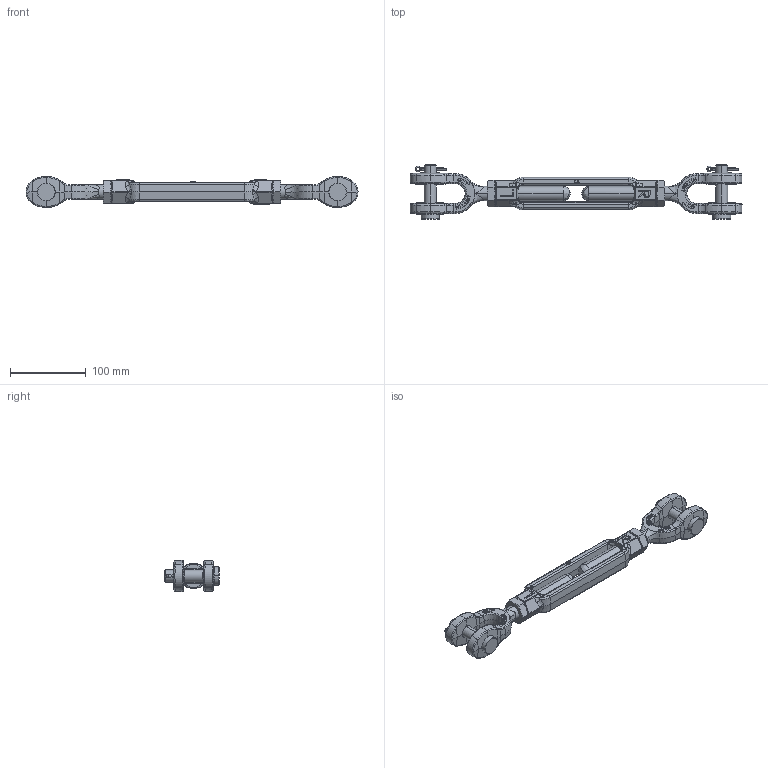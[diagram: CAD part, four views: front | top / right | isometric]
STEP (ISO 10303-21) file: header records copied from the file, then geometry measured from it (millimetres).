
FILE_DESCRIPTION(('STEP AP203'),'1');
FILE_NAME('ssgpgg1906.stp','2023-12-21T14:45:12',('TraceParts'),('TraceParts S.A.'),'Spatial InterOp 3D',' ',' ');
FILE_SCHEMA(('CONFIG_CONTROL_DESIGN'));
Length unit declared in the file: millimetre
Products named in the file (1): 1
Bounding box: 439 x 72 x 41 mm (x, y, z)
Volume: 334577.1 mm3; surface area: 94669.4 mm2
Topology: 12 solids, 12 shells, 1054 faces, 2657 edges, 1632 vertices
Faces by surface type: bspline 458, plane 319, cylinder 205, cone 72
Entity records: 62137 total; most frequent: CARTESIAN_POINT 40616, ORIENTED_EDGE 5282, DIRECTION 3233, EDGE_CURVE 2641, VERTEX_POINT 1632, LINE 1105, VECTOR 1105, EDGE_LOOP 1095
